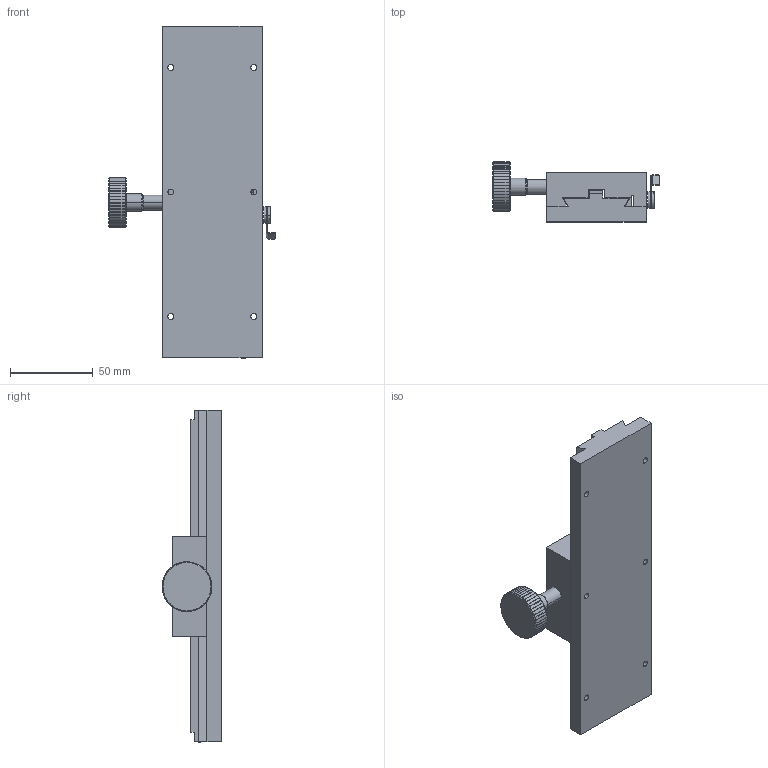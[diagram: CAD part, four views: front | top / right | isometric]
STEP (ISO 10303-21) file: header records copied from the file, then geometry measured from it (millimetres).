
FILE_DESCRIPTION (( 'STEP AP214' ), '1' );
FILE_NAME ('PT-DN60-200.STEP', '2022-08-27T08:10:48', ( '' ), ( '' ), 'SwSTEP 2.0', 'SolidWorks 2017', '' );
FILE_SCHEMA (( 'AUTOMOTIVE_DESIGN' ));
Length unit declared in the file: millimetre
Products named in the file (3): 參忒1; PT-DN60-200
Assembly tree (2 placements, depth 2):
  PT-DN60-200
    PT-DN60-200
    參忒1
Bounding box: 100.5 x 36 x 200 mm (x, y, z)
Surface area: 50274 mm2
Topology: 1 solids, 7 shells, 264 faces, 845 edges, 571 vertices
Faces by surface type: cylinder 205, plane 52, cone 6, bspline 1
Entity records: 11426 total; most frequent: CARTESIAN_POINT 4014, ORIENTED_EDGE 1550, DIRECTION 1450, EDGE_CURVE 845, VERTEX_POINT 571, AXIS2_PLACEMENT_3D 537, VECTOR 376, LINE 376
